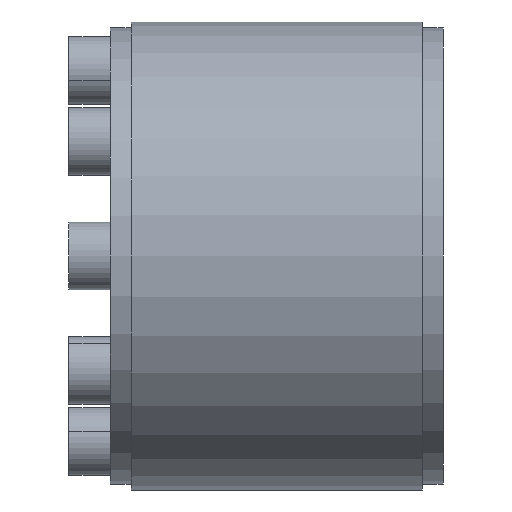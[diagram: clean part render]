
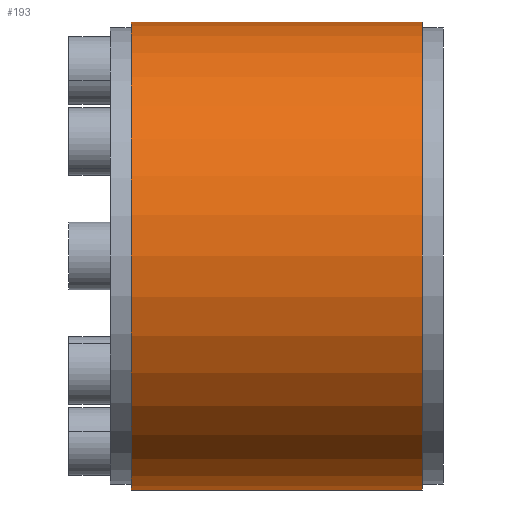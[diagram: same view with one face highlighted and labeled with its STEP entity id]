
A CAD part, front view. The second image highlights one B-rep face of the part: STEP entity #193.
In plain terms, the highlighted cylindrical face has radius 45 mm (diameter 90 mm), a partial arc.
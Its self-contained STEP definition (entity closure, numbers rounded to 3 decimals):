
#12 = EDGE_CURVE ( 'NONE', #1498, #1501, #2006, .T. ) ;
#183 = EDGE_CURVE ( 'NONE', #1543, #1542, #2357, .T. ) ;
#191 = ORIENTED_EDGE ( 'NONE', *, *, #1508, .F. ) ;
#192 = ORIENTED_EDGE ( 'NONE', *, *, #183, .T. ) ;
#193 = ADVANCED_FACE ( 'NONE', ( #2318 ), #2312, .T. ) ;
#194 = EDGE_LOOP ( 'NONE', ( #191, #192, #200, #201 ) ) ;
#200 = ORIENTED_EDGE ( 'NONE', *, *, #1458, .T. ) ;
#201 = ORIENTED_EDGE ( 'NONE', *, *, #12, .F. ) ;
#1458 = EDGE_CURVE ( 'NONE', #1542, #1501, #4788, .T. ) ;
#1498 = VERTEX_POINT ( 'NONE', #4969 ) ;
#1501 = VERTEX_POINT ( 'NONE', #4924 ) ;
#1508 = EDGE_CURVE ( 'NONE', #1543, #1498, #4917, .T. ) ;
#1542 = VERTEX_POINT ( 'NONE', #5497 ) ;
#1543 = VERTEX_POINT ( 'NONE', #5496 ) ;
#2002 = DIRECTION ( 'NONE',  ( 0., 0., 1. ) ) ;
#2003 = DIRECTION ( 'NONE',  ( -1., 0., 0. ) ) ;
#2004 = CARTESIAN_POINT ( 'NONE',  ( 4., 0., 0. ) ) ;
#2005 = AXIS2_PLACEMENT_3D ( 'NONE', #2004, #2003, #2002 ) ;
#2006 = CIRCLE ( 'NONE', #2005, 45. ) ;
#2226 = DIRECTION ( 'NONE',  ( 0., 0., 1. ) ) ;
#2228 = DIRECTION ( 'NONE',  ( -1., 0., 0. ) ) ;
#2229 = CARTESIAN_POINT ( 'NONE',  ( 60., 0., 0. ) ) ;
#2231 = AXIS2_PLACEMENT_3D ( 'NONE', #2229, #2228, #2226 ) ;
#2263 = DIRECTION ( 'NONE',  ( 0., 0., 1. ) ) ;
#2264 = DIRECTION ( 'NONE',  ( -1., 0., 0. ) ) ;
#2265 = CARTESIAN_POINT ( 'NONE',  ( 0., 0., 0. ) ) ;
#2266 = AXIS2_PLACEMENT_3D ( 'NONE', #2265, #2264, #2263 ) ;
#2312 = CYLINDRICAL_SURFACE ( 'NONE', #2266, 45. ) ;
#2318 = FACE_OUTER_BOUND ( 'NONE', #194, .T. ) ;
#2357 = CIRCLE ( 'NONE', #2231, 45. ) ;
#4785 = DIRECTION ( 'NONE',  ( -1., 0., 0. ) ) ;
#4786 = VECTOR ( 'NONE', #4785, 1000. ) ;
#4787 = CARTESIAN_POINT ( 'NONE',  ( 0., 0., 45. ) ) ;
#4788 = LINE ( 'NONE', #4787, #4786 ) ;
#4917 = LINE ( 'NONE', #4923, #4962 ) ;
#4923 = CARTESIAN_POINT ( 'NONE',  ( 0., 0., -45. ) ) ;
#4924 = CARTESIAN_POINT ( 'NONE',  ( 4., 0., 45. ) ) ;
#4961 = DIRECTION ( 'NONE',  ( -1., 0., 0. ) ) ;
#4962 = VECTOR ( 'NONE', #4961, 1000. ) ;
#4969 = CARTESIAN_POINT ( 'NONE',  ( 4., 0., -45. ) ) ;
#5496 = CARTESIAN_POINT ( 'NONE',  ( 60., 0., -45. ) ) ;
#5497 = CARTESIAN_POINT ( 'NONE',  ( 60., 0., 45. ) ) ;
